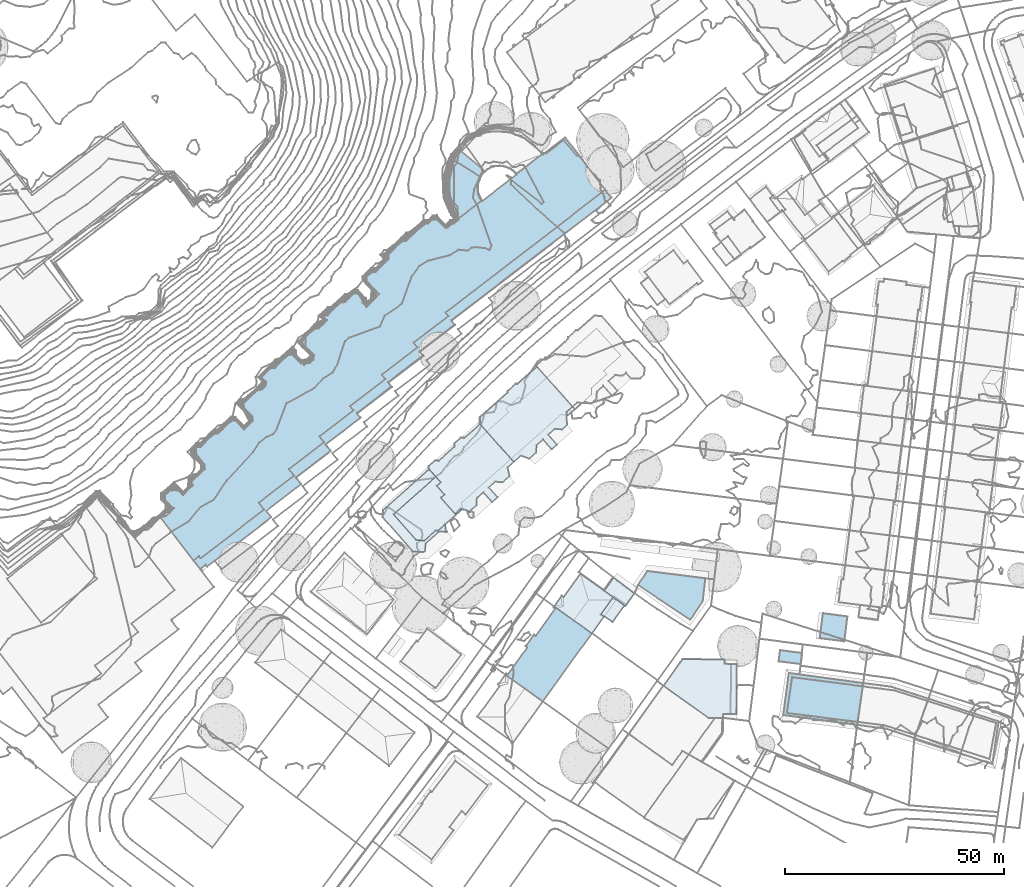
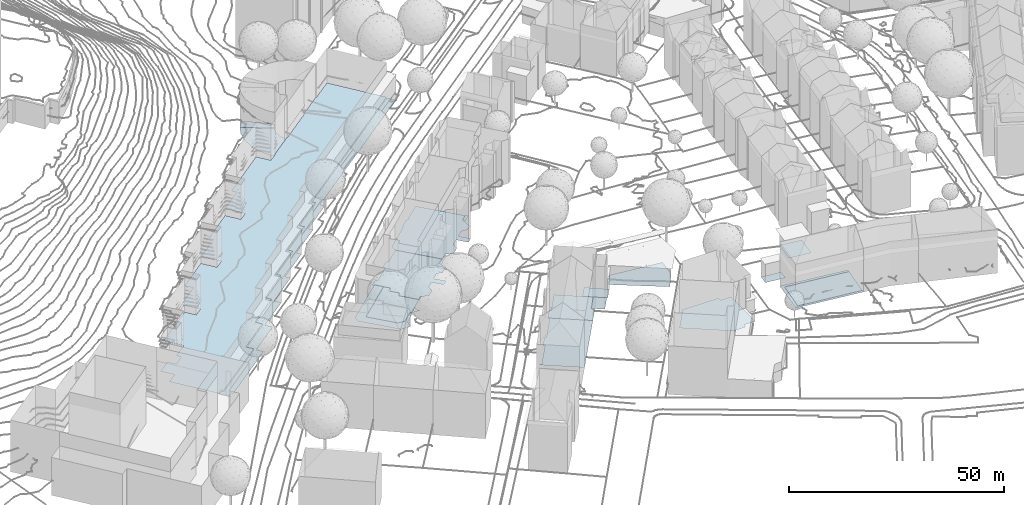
# Not in any storey, part 7 of 477: 14 footings.
"""IFC4 building model written with IfcOpenShell, lengths in metres."""

from ifc_helpers import new_model, si_unit, frame, origin_with_axes, place, context, subcontext, project, spatial, polygons, element, save


model = new_model("IFC4")

# Units and contexts
model_context = context("Model", 3, precision=1e-05, world=origin_with_axes())
body_context = subcontext(model_context, "Body", "Model", "MODEL_VIEW")
ifc_project = project(units=[si_unit("AREAUNIT", "SQUARE_METRE"), si_unit("LENGTHUNIT", "METRE")], contexts=[model_context])

# Sites, building
site_1_placement = place(None, origin_with_axes())
site_1 = spatial("IfcSite", under=ifc_project, at=site_1_placement, Name="Topoexport Site")
site_2_placement = place(site_1_placement, origin_with_axes())
site_2 = spatial("IfcSite", under=site_1, at=site_2_placement, Name="TPX_BUILDINGS")
building_1_placement = place(site_2_placement, frame((340.8067320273, 67.2771160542, 499.5586), z_axis=(0.0, 0.0, 1.0), x_axis=(1.0, 0.0, 0.0)))
building_1 = spatial("IfcBuilding", under=site_2, at=building_1_placement, Name="Building 0", CompositionType="ELEMENT")

# Footing
footing_1_placement = place(None, frame((340.8067320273, 67.2771160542, 499.5586), z_axis=(0.0, 0.0, 1.0), x_axis=(1.0, 0.0, 0.0)))
element("IfcFooting", 1, at=footing_1_placement, inside=building_1, Name="Floor 0", context=body_context, shape_type="Tessellation", body=[
    polygons([(6.0359999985, -10.3291000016, 0.095), (7.5929999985, -9.2568000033, 0.095), (6.2359999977, -10.5556000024, 0.095), (7.5969999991, -9.3476000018, 0.095), (7.3299999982, -9.1816000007, 0.095), (5.9439999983, 5.8046999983, 0.0), (7.3550000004, 7.0566999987, 0.0), (5.9859999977, 5.0351999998, 0.0), (5.8999999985, 5.1328999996, 0.0), (8.0399999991, 7.0283999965, 0.0), (8.1259999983, 6.9316999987, 0.0), (11.7049999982, 10.2568999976, 0.0), (19.4529999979, 1.5312999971, 0.0), (11.699000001, 10.0976999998, 0.0), (12.5170000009, -5.3916000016, 0.0), (2.7839999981, -3.1435000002, 0.0), (15.1950000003, -3.0205000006, 0.0), (0.0379999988, 0.5615999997, 0.0), (1.4869999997, 1.8486999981, 0.0), (0.0, 0.0, 0.0), (2.1490000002, 1.8105999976, 0.0), (2.2349999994, 1.7138999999, 0.0), (3.6270000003, -5.9501000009, 0.0), (1.862999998, -3.9589000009, 0.0), (18.0460000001, 0.2822999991, 0.0), (16.8829999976, -3.1611000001, 0.0), (13.7280000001, -4.3193000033, 0.0), (18.4919999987, -1.7119000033, 0.0), (15.7719999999, -6.5732000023, 0.0), (14.5480000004, -7.6601000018, 0.0), (7.3299999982, -9.1816000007, 0.0), (11.0419999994, -6.6972000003, 0.0), (6.0359999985, -10.3291000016, 0.0), (2.8039999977, -6.6796000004, 0.0), (8.8339999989, -9.6103000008, 0.0), (10.9439999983, -8.3740000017, 0.0), (9.3159999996, -9.8183000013, 0.0), (9.0009999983, -9.7988000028, 0.0)], [[[1, 2, 3]], [[4, 3, 2]], [[1, 5, 2]], [[6, 7, 8]], [[9, 6, 8]], [[10, 11, 7]], [[12, 13, 14]], [[8, 15, 16]], [[7, 11, 8]], [[8, 11, 17]], [[18, 19, 20]], [[21, 22, 19]], [[22, 16, 20]], [[20, 19, 22]], [[23, 24, 16]], [[8, 16, 22]], [[14, 25, 11]], [[25, 26, 17]], [[11, 25, 17]], [[8, 17, 27]], [[15, 8, 27]], [[26, 25, 28]], [[27, 29, 30]], [[30, 15, 27]], [[31, 23, 32]], [[33, 34, 23]], [[23, 31, 33]], [[32, 35, 31]], [[16, 32, 23]], [[35, 32, 36]], [[37, 38, 35]], [[35, 36, 37]], [[32, 16, 15]], [[14, 13, 25]]]),
])

# Building
building_2_placement = place(site_2_placement, frame((330.2977320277, 56.1951160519, 500.0165), z_axis=(0.0, 0.0, 1.0), x_axis=(1.0, 0.0, 0.0)))
building_2 = spatial("IfcBuilding", under=site_2, at=building_2_placement, Name="Building 1", CompositionType="ELEMENT")

# Footing
footing_2_placement = place(None, frame((330.2977320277, 56.1951160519, 500.0165), z_axis=(0.0, 0.0, 1.0), x_axis=(1.0, 0.0, 0.0)))
element("IfcFooting", 2, at=footing_2_placement, inside=building_2, Name="Floor 0", context=body_context, shape_type="Tessellation", body=[
    polygons([(2.4809999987, 0.6220999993, -0.028), (12.0229999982, -3.1611000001, -0.028), (7.6979999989, -5.254900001, -0.028), (9.4509999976, -5.4442999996, -0.028), (12.6629999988, -3.0986000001, -0.028), (13.3129999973, 4.4024000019, -0.028), (12.1620000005, 9.2149000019, -0.028), (13.2929999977, 7.938500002, -0.028), (12.3719999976, 7.1231000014, -0.028), (16.7449999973, 0.5263999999, -0.028), (14.1359999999, 5.1319000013, -0.028), (0.1019999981, 1.5967000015, 0.0), (2.4809999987, 0.6220999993, 0.0), (0.0, 0.0, 0.0), (7.6979999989, -5.254900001, 0.0), (10.6409999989, 10.932599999, 0.0), (6.9910000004, -7.8768999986, 0.0), (9.8019999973, -6.0546999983, 0.0), (9.3449999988, -8.0175999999, 0.0), (9.7049999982, -7.7245999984, 0.0), (9.4509999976, -5.4442999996, 0.0), (12.0229999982, -3.1611000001, 0.0), (12.1620000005, 9.2149000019, 0.0), (12.6629999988, -3.0986000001, 0.0), (14.3640000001, -2.9481999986, 0.0), (12.8499999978, -3.316399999, 0.0), (14.6799999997, -3.3037, 0.0), (14.5249999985, -3.4404000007, 0.0), (14.3189999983, -1.6279000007, 0.0)], [[[1, 2, 3]], [[4, 3, 2]], [[5, 2, 6]], [[1, 6, 2]], [[7, 8, 9]], [[9, 1, 7]], [[10, 5, 6]], [[6, 9, 11]], [[6, 1, 9]], [[12, 13, 14]], [[15, 14, 13]], [[16, 13, 12]], [[15, 17, 14]], [[17, 18, 19]], [[18, 20, 19]], [[15, 18, 17]], [[21, 22, 18]], [[21, 18, 15]], [[16, 23, 13]], [[24, 25, 26]], [[26, 22, 24]], [[25, 27, 28]], [[28, 26, 25]], [[29, 25, 24]], [[26, 18, 22]]]),
])

# Building
building_3_placement = place(site_2_placement, frame((352.5117320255, 77.5340160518, 499.5586), z_axis=(0.0, 0.0, 1.0), x_axis=(1.0, 0.0, 0.0)))
building_3 = spatial("IfcBuilding", under=site_2, at=building_3_placement, Name="Building 2", CompositionType="ELEMENT")

# Footing
footing_3_placement = place(None, frame((352.5117320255, 77.5340160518, 499.5586), z_axis=(0.0, 0.0, 1.0), x_axis=(1.0, 0.0, 0.0)))
element("IfcFooting", 3, at=footing_3_placement, inside=building_3, Name="Floor 0", context=body_context, shape_type="Tessellation", body=[
    polygons([(21.7280000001, 3.3291000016, 0.095), (19.8289999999, 2.6865000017, 0.095), (21.2080000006, 3.9121000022, 0.095), (20.1009999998, 1.884800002, 0.095), (19.8509999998, 1.9219000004, 0.095), (8.4470000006, 9.0976000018, 0.0), (8.5260000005, 9.0078000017, 0.0), (8.2180000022, 9.1084000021, 0.0), (6.3859999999, 7.1103000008, 0.0), (21.2080000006, 3.9121000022, 0.0), (19.8289999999, 2.6865000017, 0.0), (13.0700000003, 13.0361000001, 0.0), (17.1070000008, -1.2168000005, 0.0), (15.6400000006, -2.5165999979, 0.0), (6.3170000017, 7.4219000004, 0.0), (6.3060000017, 7.2012000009, 0.0), (9.3599999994, -7.2949000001, 0.0), (7.7479999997, -8.7256000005, 0.0), (0.0, 0.0, 0.0), (12.9550000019, -4.8944999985, 0.0), (0.0549999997, 1.4990000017, 0.0), (14.4210000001, -3.5956999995, 0.0), (19.9140000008, -0.2256000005, 0.0), (18.7750000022, -1.3368999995, 0.0), (19.9660000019, -0.2831999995, 0.0), (17.6390000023, -4.7841999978, 0.0), (12.8520000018, -6.5830000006, 0.0), (11.2569999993, -7.9970999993, 0.0), (16.4270000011, -5.8603999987, 0.0)], [[[1, 2, 3]], [[4, 5, 2]], [[2, 1, 4]], [[6, 7, 8]], [[8, 7, 9]], [[10, 11, 12]], [[13, 7, 11]], [[11, 7, 12]], [[9, 7, 14]], [[15, 9, 16]], [[17, 18, 19]], [[20, 19, 9]], [[19, 21, 9]], [[8, 9, 15]], [[9, 14, 22]], [[13, 11, 23]], [[13, 23, 24]], [[24, 23, 25]], [[26, 22, 14]], [[20, 17, 19]], [[22, 20, 9]], [[20, 27, 17]], [[28, 17, 27]], [[26, 29, 22]], [[7, 13, 14]]]),
])

# Building
building_4_placement = place(site_2_placement, frame((388.6417320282, 40.6092160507, 499.4665), z_axis=(0.0, 0.0, 1.0), x_axis=(1.0, 0.0, 0.0)))
building_4 = spatial("IfcBuilding", under=site_2, at=building_4_placement, Name="Building 5", CompositionType="ELEMENT")

# Footing
footing_4_placement = place(None, frame((388.6417320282, 40.6092160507, 499.4665), z_axis=(0.0, 0.0, 1.0), x_axis=(1.0, 0.0, 0.0)))
element("IfcFooting", 4, at=footing_4_placement, inside=building_4, Name="Floor 0", context=body_context, shape_type="Tessellation", body=[
    polygons([(11.9599999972, -7.9247999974, 0.0), (2.1380000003, 3.2187000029, 0.0), (14.8159999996, -3.6132999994, 0.0), (15.425999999, 1.5498000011, 0.0), (0.0, 0.0, 0.0)], [[[1, 2, 3]], [[2, 4, 3]], [[1, 5, 2]]]),
])

# Building
building_5_placement = place(site_2_placement, frame((369.4907320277, 35.7234160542, 499.6315), z_axis=(0.0, 0.0, 1.0), x_axis=(1.0, 0.0, 0.0)))
building_5 = spatial("IfcBuilding", under=site_2, at=building_5_placement, Name="Building 6", CompositionType="ELEMENT")

# Footing
footing_5_placement = place(None, frame((369.4907320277, 35.7234160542, 499.6315), z_axis=(0.0, 0.0, 1.0), x_axis=(1.0, 0.0, 0.0)))
element("IfcFooting", 5, at=footing_5_placement, inside=building_5, Name="Floor 0", context=body_context, shape_type="Tessellation", body=[
    polygons([(16.2229999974, 0.1318999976, -0.038), (16.629999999, 4.2685999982, -0.038), (18.318, 3.0195999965, -0.038), (11.4210000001, 3.5898999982, -0.038), (13.5739999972, 6.5800999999, -0.038), (10.6519999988, -1.7890000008, -0.021), (11.4769999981, -2.2109000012, -0.021), (11.3949999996, -2.3252000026, -0.021), (13.4670000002, 2.1171999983, -0.021), (16.0519999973, 0.2548999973, -0.021), (13.3389999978, -3.5127000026, -0.021), (11.4210000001, 3.5898999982, 0.0), (10.6519999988, -1.7890000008, 0.0), (4.4399999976, -3.1738000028, 0.0), (13.4670000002, 2.1171999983, 0.0), (2.1679999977, 2.1728999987, 0.0), (5.9979999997, 7.495199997, 0.0), (11.3649999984, -2.3027000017, 0.0), (8.5969999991, -6.1464000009, 0.0), (0.5480000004, -0.3916000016, 0.0), (1.7650000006, 2.4628999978, 0.0), (0.0, 0.0, 0.0)], [[[1, 2, 3]], [[4, 5, 2]], [[2, 1, 4]], [[6, 7, 8]], [[6, 9, 7]], [[10, 11, 7]], [[7, 9, 10]], [[12, 13, 14]], [[13, 12, 15]], [[16, 17, 12]], [[16, 12, 14]], [[18, 19, 13]], [[16, 20, 21]], [[16, 14, 20]], [[22, 21, 20]], [[13, 19, 14]]]),
])

# Building
building_6_placement = place(site_2_placement, frame((394.4647320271, 17.5984160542, 499.0235), z_axis=(0.0, 0.0, 1.0), x_axis=(1.0, 0.0, 0.0)))
building_6 = spatial("IfcBuilding", under=site_2, at=building_6_placement, Name="Building 22", CompositionType="ELEMENT")

# Footing
footing_6_placement = place(None, frame((394.4647320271, 17.5984160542, 499.0235), z_axis=(0.0, 0.0, 1.0), x_axis=(1.0, 0.0, 0.0)))
element("IfcFooting", 6, at=footing_6_placement, inside=building_6, Name="Floor 0", context=body_context, shape_type="Tessellation", body=[
    polygons([(0.0, 0.0, 0.0), (3.7740000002, 5.2734999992, 0.0), (10.2760000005, -7.3496000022, 0.0), (13.938000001, 5.995199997, 0.0), (4.3720000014, 6.1025999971, 0.0), (13.9409999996, 5.0370999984, 0.0), (11.7419999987, -7.3427000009, 0.0), (13.6490000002, -6.4091000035, 0.0), (12.8969999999, -7.3437000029, 0.0), (11.8640000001, -7.3427000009, 0.0), (13.495000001, -7.3369000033, 0.0), (15.4910000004, 5.0146999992, 0.0), (15.3619999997, -6.433600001, 0.0), (16.7879999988, 4.995199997, 0.0), (13.6359999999, -7.3623000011, 0.0), (16.6579999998, -6.4521000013, 0.0), (13.493999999, -7.3613000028, 0.0)], [[[1, 2, 3]], [[4, 2, 5]], [[3, 2, 6]], [[7, 3, 8]], [[9, 10, 8]], [[7, 8, 10]], [[2, 4, 6]], [[6, 8, 3]], [[8, 11, 9]], [[12, 13, 8]], [[12, 8, 6]], [[12, 14, 13]], [[8, 15, 11]], [[13, 14, 16]], [[15, 17, 11]]]),
])

# Building
building_7_placement = place(site_2_placement, frame((420.8027320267, 23.1951160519, 499.3155), z_axis=(0.0, 0.0, 1.0), x_axis=(1.0, 0.0, 0.0)))
building_7 = spatial("IfcBuilding", under=site_2, at=building_7_placement, Name="Building 24", CompositionType="ELEMENT")

# Footing
footing_7_placement = place(None, frame((420.8027320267, 23.1951160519, 499.3155), z_axis=(0.0, 0.0, 1.0), x_axis=(1.0, 0.0, 0.0)))
element("IfcFooting", 7, at=footing_7_placement, inside=building_7, Name="Floor 0", context=body_context, shape_type="Tessellation", body=[
    polygons([(5.0469999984, -0.6405999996, 0.0), (0.0, 0.0, 0.0), (5.3189999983, 1.8975000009, 0.0), (0.3220000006, 2.5313000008, 0.0)], [[[1, 2, 3]], [[4, 3, 2]]]),
])

# Building
building_8_placement = place(site_2_placement, frame((430.1957320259, 28.5057160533, 499.7544), z_axis=(0.0, 0.0, 1.0), x_axis=(1.0, 0.0, 0.0)))
building_8 = spatial("IfcBuilding", under=site_2, at=building_8_placement, Name="Building 29", CompositionType="ELEMENT")

# Footing
footing_8_placement = place(None, frame((430.1957320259, 28.5057160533, 499.7544), z_axis=(0.0, 0.0, 1.0), x_axis=(1.0, 0.0, 0.0)))
element("IfcFooting", 8, at=footing_8_placement, inside=building_8, Name="Floor 0", context=body_context, shape_type="Tessellation", body=[
    polygons([(6.3170000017, 4.9305999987, 0.0), (0.0, 0.0, 0.0), (0.7470000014, 5.6649999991, 0.0), (5.6220000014, -0.7412, 0.0)], [[[1, 2, 3]], [[2, 1, 4]]]),
])

# Building
building_9_placement = place(site_2_placement, frame((358.3217320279, 20.123816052, 499.6315), z_axis=(0.0, 0.0, 1.0), x_axis=(1.0, 0.0, 0.0)))
building_9 = spatial("IfcBuilding", under=site_2, at=building_9_placement, Name="Building 30", CompositionType="ELEMENT")

# Footing
footing_9_placement = place(None, frame((358.3217320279, 20.123816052, 499.6315), z_axis=(0.0, 0.0, 1.0), x_axis=(1.0, 0.0, 0.0)))
element("IfcFooting", 9, at=footing_9_placement, inside=building_9, Name="Floor 0", context=body_context, shape_type="Tessellation", body=[
    polygons([(15.6089999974, 12.4248000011, 0.0), (5.0409999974, 6.2529999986, 0.0), (6.935999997, 8.884800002, 0.0), (11.424999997, 15.1182000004, 0.0), (11.7170000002, 15.2071000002, 0.0), (11.1939999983, 15.5811000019, 0.0), (19.7679999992, 9.4550999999, 0.0), (8.5529999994, -6.121100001, 0.0), (11.0289999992, 15.4033000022, 0.0), (11.1689999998, 15.5996000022, 0.0), (5.612999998, 7.8399000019, 0.0), (6.557, 9.1581999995, 0.0), (0.5859999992, -0.4188999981, 0.0), (0.5869999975, 0.066399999, 0.0), (4.3979999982, -3.1473999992, 0.0), (0.0, 0.0, 0.0), (0.231999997, 0.3233000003, 0.0), (4.810999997, 6.7197999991, 0.0), (4.6689999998, 6.5205000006, 0.0)], [[[1, 2, 3]], [[3, 4, 5]], [[5, 1, 3]], [[4, 6, 5]], [[7, 8, 1]], [[6, 9, 10]], [[6, 4, 9]], [[11, 12, 3]], [[2, 13, 14]], [[2, 11, 3]], [[1, 15, 2]], [[16, 14, 13]], [[13, 2, 15]], [[14, 16, 17]], [[18, 11, 2]], [[2, 19, 18]], [[1, 8, 15]]]),
])

# Building
building_10_placement = place(site_2_placement, frame((287.111732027, 46.2742160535, 500.3625), z_axis=(0.0, 0.0, 1.0), x_axis=(1.0, 0.0, 0.0)))
building_10 = spatial("IfcBuilding", under=site_2, at=building_10_placement, Name="Building 65", CompositionType="ELEMENT")

# Footings
footing_10_placement = place(None, frame((287.111732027, 46.2742160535, 500.3625), z_axis=(0.0, 0.0, 1.0), x_axis=(1.0, 0.0, 0.0)))
element("IfcFooting", 10, at=footing_10_placement, inside=building_10, Name="Floor 0", context=body_context, shape_type="Tessellation", body=[
    polygons([(22.9389999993, 19.373999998, 0.0), (31.2809999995, 25.0595999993, 0.0), (23.5199999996, 19.0859999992, 0.0), (14.9120000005, 13.1963, 0.0), (23.5540000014, 19.0409999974, 0.0), (23.4169999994, 18.936499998, 0.0), (21.7800000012, 20.8798999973, 0.0), (30.180999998, 26.4892999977, 0.0), (16.1149999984, 11.6327999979, 0.0), (34.0, 29.4287, 0.0), (30.2039999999, 26.5136999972, 0.0), (29.7670000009, 27.0273999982, 0.0), (37.3959999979, 33.5605999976, 0.0), (28.7509999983, 28.3476999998, 0.0), (37.3500000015, 33.7157999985, 0.0), (1.2320000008, 0.9492000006, 0.0), (1.6050000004, 0.4657999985, 0.0), (0.0, 0.0, 0.0), (1.6099999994, -1.8729999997, 0.0), (1.998999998, -2.3779000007, 0.0), (1.8920000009, -2.4599000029, 0.0), (2.7769999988, -0.9765000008, 0.0), (24.5659999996, 17.436499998, 0.0), (16.6169999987, 11.3145000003, 0.0), (17.7509999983, 9.8407999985, 0.0), (3.1019999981, -1.3984000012, 0.0), (58.932, 54.9345999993, 0.0), (58.943, 54.7890999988, 0.0), (51.1259999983, 48.7148999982, 0.0), (50.3110000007, 49.7714999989, 0.0), (59.6220000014, 53.9013999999, 0.0), (51.7800000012, 47.8662, 0.0), (43.0359999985, 42.4872999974, 0.0), (43.8249999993, 41.4657999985, 0.0), (57.6119999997, 56.6493999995, 0.0), (94.0659999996, 84.7060999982, 0.0), (58.2199999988, 55.8594000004, 0.0), (95.4860000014, 82.8574000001, 0.0), (59.006000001, 54.8378999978, 0.0), (45.1600000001, 39.7275999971, 0.0), (36.5020000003, 34.3154000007, 0.0), (35.7699999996, 35.2655999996, 0.0), (44.4059999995, 40.7099999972, 0.0), (38.131000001, 32.6006000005, 0.0), (37.4419999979, 33.5956999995, 0.0), (51.7580000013, 47.7001999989, 0.0), (52.3969999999, 46.8603999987, 0.0), (51.8519999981, 47.7724999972, 0.0)], [[[1, 2, 3]], [[1, 3, 4]], [[3, 5, 6]], [[6, 4, 3]], [[7, 8, 1]], [[6, 9, 4]], [[10, 11, 12]], [[10, 12, 13]], [[11, 8, 12]], [[7, 12, 8]], [[1, 8, 2]], [[14, 15, 12]], [[16, 17, 18]], [[17, 19, 18]], [[19, 20, 21]], [[21, 18, 19]], [[17, 22, 19]], [[23, 24, 9]], [[9, 6, 23]], [[22, 17, 24]], [[25, 26, 22]], [[22, 24, 25]], [[17, 9, 24]], [[27, 28, 29]], [[29, 30, 27]], [[28, 31, 29]], [[32, 33, 29]], [[29, 31, 32]], [[32, 34, 33]], [[35, 36, 37]], [[30, 37, 27]], [[36, 38, 37]], [[28, 27, 39]], [[27, 37, 38]], [[40, 15, 41]], [[41, 42, 43]], [[13, 12, 15]], [[10, 13, 44]], [[13, 15, 45]], [[41, 15, 14]], [[34, 46, 47]], [[46, 32, 48]], [[41, 43, 40]], [[43, 34, 47]], [[42, 34, 43]], [[46, 34, 32]]]),
])
footing_11_placement = place(None, frame((287.111732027, 46.2742160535, 500.3625), z_axis=(0.0, 0.0, 1.0), x_axis=(1.0, 0.0, 0.0)))
element("IfcFooting", 11, at=footing_11_placement, inside=building_10, Name="Floor 4", context=body_context, shape_type="Tessellation", body=[
    polygons([(94.0659999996, 84.7060999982, 0.246), (79.8079999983, 92.7793000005, 0.246), (84.8759999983, 96.6719000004, 0.246), (73.8330000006, 88.1933999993, 0.246), (65.881000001, 82.0907999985, 0.246), (59.9290000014, 77.5224999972, 0.246), (57.6119999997, 56.6493999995, 0.246), (57.987999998, 76.0321999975, 0.246), (41.8640000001, 60.2568999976, 0.246), (79.7149999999, 92.9023999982, 0.246), (59.8550000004, 77.6171999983, 0.246), (51.1259999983, 48.7148999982, 0.246), (43.0359999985, 42.4872999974, 0.246), (50.3110000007, 49.7714999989, 0.246), (13.373999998, 31.8007999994, 0.246), (27.3409999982, 46.2196999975, 0.246), (58.2199999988, 55.8594000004, 0.246), (57.8099999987, 76.0429999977, 0.246), (39.8319999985, 58.6923999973, 0.246), (30.1050000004, 54.7196999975, 0.2461), (57.9169999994, 76.125, 0.246), (65.805999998, 82.1972999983, 0.246), (48.7690000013, 73.6845999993, 0.2461), (55.5920000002, 78.9257999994, 0.2461), (73.7399999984, 88.3037, 0.246), (44.4690000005, 68.7021999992, 0.2461), (38.7520000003, 64.3017999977, 0.2461), (29.3720000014, 55.6719000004, 0.2461), (37.4019999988, 61.8515999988, 0.2461), (44.305999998, 68.9091999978, 0.2461), (43.6530000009, 69.753899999, 0.2461), (43.8249999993, 41.4657999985, 0.246), (35.7699999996, 35.2655999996, 0.246), (14.9120000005, 13.1963, 0.246), (21.7800000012, 20.8798999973, 0.246), (22.9389999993, 19.373999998, 0.246), (-5.1009999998, 11.7870999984, 0.246), (36.5020000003, 34.3154000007, 0.246), (28.7509999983, 28.3476999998, 0.246), (29.7670000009, 27.0273999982, 0.246), (2.631000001, 20.9150999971, 0.246), (1.6050000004, 0.4657999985, 0.246), (1.2320000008, 0.9492000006, 0.246), (16.1149999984, 11.6327999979, 0.246), (0.0, 0.0, 0.246), (-7.5949999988, 9.8671999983, 0.246), (-0.1440000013, 17.2118999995, 0.246), (-2.5910000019, 15.3271999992, 0.246), (-7.251000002, 14.5810999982, 0.246), (25.2809999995, 44.6347999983, 0.246), (10.425999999, 35.6308999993, 0.246), (16.2939999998, 40.1464999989, 0.246), (22.7939999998, 47.8671999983, 0.246), (24.2609999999, 50.2216999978, 0.2461), (14.9800000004, 41.8544999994, 0.2461), (-0.9030000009, 18.1963, 0.246), (-3.9640000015, 17.1112999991, 0.246), (11.3370000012, 30.4052999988, 0.246), (11.4160000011, 30.2949000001, 0.246), (9.6420000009, 32.5976999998, 0.246), (-0.4759999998, 24.9521999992, 0.246)], [[[1, 2, 3]], [[1, 4, 2]], [[1, 5, 4]], [[6, 5, 7]], [[8, 6, 9]], [[4, 10, 2]], [[5, 1, 7]], [[5, 6, 11]], [[12, 13, 14]], [[15, 14, 13]], [[7, 14, 16]], [[14, 7, 17]], [[9, 18, 8]], [[19, 9, 16]], [[7, 16, 9]], [[9, 6, 7]], [[20, 19, 16]], [[21, 8, 18]], [[11, 22, 5]], [[23, 24, 18]], [[10, 4, 25]], [[26, 9, 27]], [[28, 29, 20]], [[9, 26, 18]], [[26, 30, 23]], [[23, 18, 26]], [[31, 23, 30]], [[20, 29, 19]], [[32, 33, 13]], [[34, 35, 36]], [[34, 37, 35]], [[13, 33, 15]], [[38, 39, 33]], [[40, 35, 39]], [[33, 39, 41]], [[37, 39, 35]], [[42, 43, 44]], [[45, 46, 43]], [[37, 34, 43]], [[47, 37, 48]], [[37, 43, 46]], [[37, 47, 39]], [[49, 48, 37]], [[44, 43, 34]], [[39, 47, 41]], [[16, 15, 50]], [[15, 51, 52]], [[52, 50, 15]], [[15, 16, 14]], [[50, 52, 53]], [[16, 54, 20]], [[53, 52, 55]], [[41, 47, 56]], [[49, 57, 48]], [[41, 58, 59]], [[60, 58, 61]], [[61, 58, 41]], [[59, 15, 41]], [[33, 41, 15]]]),
])
footing_12_placement = place(None, frame((287.111732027, 46.2742160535, 500.3625), z_axis=(0.0, 0.0, 1.0), x_axis=(1.0, 0.0, 0.0)))
element("IfcFooting", 12, at=footing_12_placement, inside=building_10, Name="Floor 7", context=body_context, shape_type="Tessellation", body=[
    polygons([(65.6440000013, 87.8515999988, -0.3589), (58.6970000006, 91.8827999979, -0.3589), (65.8969999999, 88.2099999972, -0.3589), (66.180999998, 88.5449000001, -0.3589), (60.3469999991, 94.1474999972, -0.3589), (66.4919999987, 88.8534999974, -0.3589), (66.5350000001, 88.8886999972, -0.3589), (65.5130000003, 87.6270000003, -0.3589), (65.5219999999, 87.6425999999, -0.3589), (65.557, 87.5995999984, -0.3589)], [[[1, 2, 3]], [[4, 5, 6]], [[6, 5, 7]], [[5, 4, 3]], [[8, 9, 10]], [[5, 3, 2]], [[9, 8, 2]], [[9, 2, 1]]]),
])
footing_13_placement = place(None, frame((287.111732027, 46.2742160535, 500.3625), z_axis=(0.0, 0.0, 1.0), x_axis=(1.0, 0.0, 0.0)))
element("IfcFooting", 13, at=footing_13_placement, inside=building_10, Name="Floor 9", context=body_context, shape_type="Tessellation", body=[
    polygons([(57.0460000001, 86.6904999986, -0.3589), (65.805999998, 82.1983000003, -0.3589), (57.1569999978, 83.7168000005, -0.3589), (65.0410000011, 84.2001999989, -0.3589), (57.682, 89.7196999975, -0.3589), (58.5159999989, 79.6083999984, -0.3589), (57.5599999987, 81.8847999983, -0.3589), (58.6970000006, 91.8827999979, -0.3589), (65.5130000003, 87.6270000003, -0.3589), (65.557, 87.5995999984, -0.3589), (65.0009999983, 85.9745999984, -0.3589), (59.8660000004, 77.623999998, -0.3589), (65.8959999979, 82.2675999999, -0.3589)], [[[1, 2, 3]], [[4, 1, 5]], [[2, 6, 7]], [[2, 7, 3]], [[8, 9, 5]], [[10, 11, 9]], [[5, 11, 4]], [[2, 12, 6]], [[4, 2, 1]], [[2, 4, 13]], [[5, 9, 11]]]),
])

# Building
building_11_placement = place(site_2_placement, frame((421.872732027, 10.8992160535, 499.1825), z_axis=(0.0, 0.0, 1.0), x_axis=(1.0, 0.0, 0.0)))
building_11 = spatial("IfcBuilding", under=site_2, at=building_11_placement, Name="Building 66", CompositionType="ELEMENT")

# Footing
footing_14_placement = place(None, frame((421.872732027, 10.8992160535, 499.1825), z_axis=(0.0, 0.0, 1.0), x_axis=(1.0, 0.0, 0.0)))
element("IfcFooting", 14, at=footing_14_placement, inside=building_11, Name="Floor 0", context=body_context, shape_type="Tessellation", body=[
    polygons([(0.0, 0.0, 0.0), (1.2699999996, 9.6074000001, 0.0), (2.0320000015, 8.6543000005, 0.0), (0.8189999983, 0.4648999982, 0.0), (0.1770000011, -0.0224000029, 0.0), (16.875, -2.2402000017, -0.0001), (18.2749999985, 7.3105999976, 0.0), (18.1640000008, 6.557599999, 0.0), (17.0190000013, -1.5713, -0.0001), (16.9239999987, -2.246100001, -0.0001), (2.0320000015, 8.6543000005, 0.031), (17.6270000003, 2.7470999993, 0.0309), (0.8189999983, 0.4648999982, 0.031), (17.0190000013, -1.5713, 0.0309), (18.1640000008, 6.557599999, 0.0309)], [[[1, 2, 3]], [[4, 5, 1]], [[4, 1, 3]], [[4, 6, 5]], [[7, 8, 3]], [[3, 2, 7]], [[9, 10, 6]], [[4, 9, 6]], [[11, 12, 13]], [[14, 13, 12]], [[12, 11, 15]]]),
])

save(model, "model.ifc")
